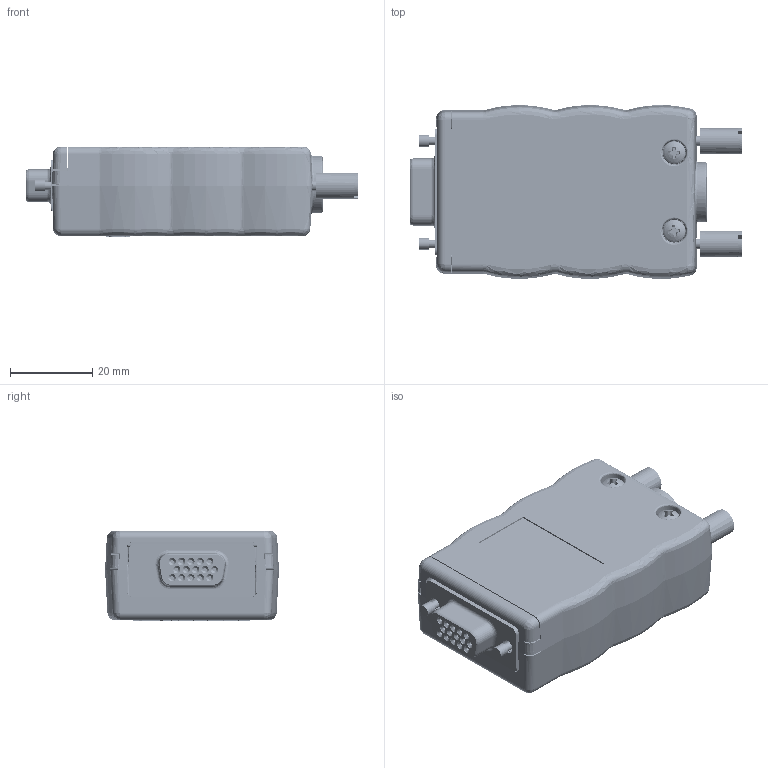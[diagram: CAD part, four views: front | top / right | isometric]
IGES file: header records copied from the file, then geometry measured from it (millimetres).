
Start section: SolidWorks IGES file using analytic representation for surfaces
Global section: file name: W:\end-user\products\brk\brke\brkegd15hd\brkegd15hdf\3dmodel\rev_a\render\brkegd15hdf-t_rev_a.igs; native system: SolidWorks 2017; preprocessor: SolidWorks 2017; author: jbright; date: 181113.092432; units: inch
Bounding box: 80.66 x 42.23 x 22 mm (x, y, z)
Volume: 30133.5 mm3; surface area: 37321 mm2
Topology: 66 solids, 66 shells, 10341 faces, 29012 edges, 19664 vertices
Faces by surface type: bspline 3707, plane 3481, revolution 3153
